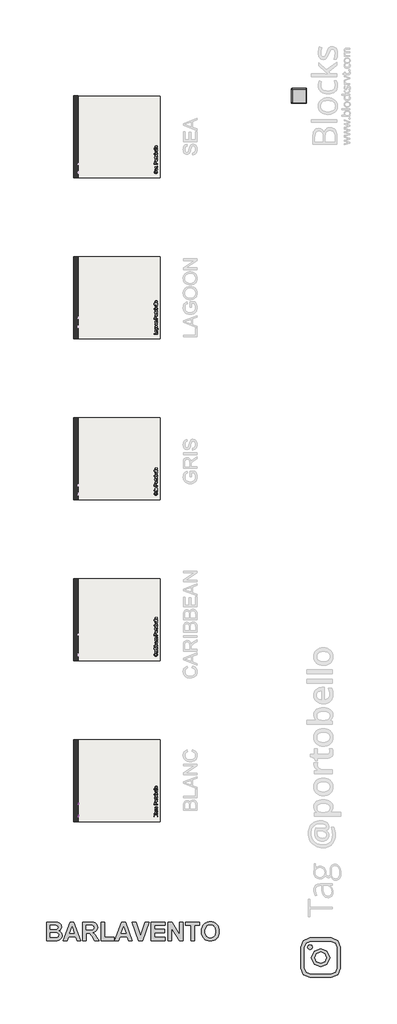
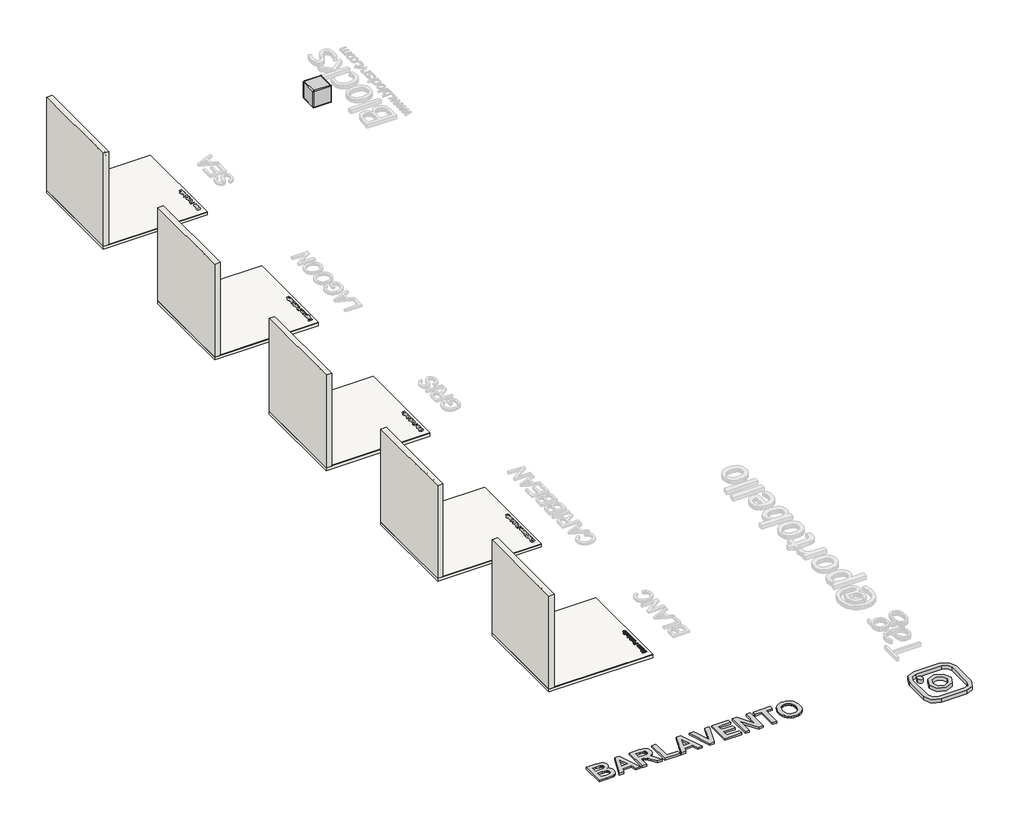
# One storey, part 1 of 7: 10 slabs, 6 proxies, 5 walls, 1 furniture element.
"""IFC4 building model written with IfcOpenShell, lengths in millimetres."""

from ifc_helpers import new_model, si_unit, frame, origin, origin_with_axes, place, context, project, spatial, polyline, outline, extrude, transform, mapped, element, save
from components import generic_models_d67f6705, branco_22256ad2

model = new_model("IFC4")

# Units and contexts
model_context = context("Model", 3, world=origin())
ifc_project = project(units=[si_unit("LENGTHUNIT", "METRE", prefix="MILLI")], contexts=[model_context])

# Site, building, storey
site = spatial("IfcSite", under=ifc_project)
building = spatial("IfcBuilding", under=site)
storey = spatial("IfcBuildingStorey", under=building, Name="PORTOBELLO - SHOWROOM", Elevation=0.0)

# Proxies
placement = place(None, origin())
generic_models_shape = generic_models_d67f6705(model_context)
element("IfcBuildingElementProxy", 1, Name="Blks_Instagram1 : Único 2", ObjectType="Blks_Instagram1 : Único 2", at=placement, inside=storey, context=model_context, shape_type="MappedRepresentation", body=[
    mapped(generic_models_shape, transform((82568.7650372, -17218.2432303, 0.0), x_axis=(-1.0, 0.0, 0.0), y_axis=(0.0, -1.0, 0.0), z_axis=(0.0, 0.0, 1.0))),
])
element("IfcBuildingElementProxy", 2, Name="10mm Arial", ObjectType="10mm Arial", at=placement, inside=storey, context=model_context, shape_type="SweptSolid", body=[
    extrude(outline(polyline([(-12585.2594662, 2478.2261649), (-12585.2594662, 2578.6824751), (-12546.9261623, 2578.6824751), (-12528.1519178, 2575.7271564), (-12517.066407, 2566.6404711), (-12513.0564933, 2553.7891267), (-12516.4287449, 2542.0536911), (-12526.6190762, 2533.1632095), (-12514.2459784, 2523.7944814), (-12509.9172336, 2508.1717593), (-12512.8725523, 2494.6704901), (-12520.193404, 2485.0565073), (-12531.1194993, 2479.9552103), (-12547.2204679, 2478.2261649), (-12585.2594662, 2478.2261649)]), holes=[polyline([(-12572.7024274, 2537.8720991), (-12549.7711164, 2537.8720991), (-12536.3802118, 2538.9512196), (-12528.3235961, 2543.5987955), (-12525.6135321, 2551.7780385), (-12528.1396551, 2559.9695443), (-12535.3746677, 2564.8133239), (-12551.5124245, 2566.1254363), (-12572.7024274, 2566.1254363), (-12572.7024274, 2537.8720991)]), polyline([(-12572.7024274, 2490.7832037), (-12546.9506878, 2490.7832037), (-12537.6310106, 2491.273713), (-12529.7460731, 2494.0083025), (-12524.5221488, 2499.5878461), (-12522.4742724, 2508.049132), (-12524.8777681, 2517.8102676), (-12532.6646036, 2523.6350659), (-12548.1769611, 2525.3150603), (-12572.7024274, 2525.3150603), (-12572.7024274, 2490.7832037)])]), frame((74564.1689403, 0.0, 0.0), z_axis=(1.0, 0.0, 0.0), x_axis=(0.0, 1.0, 0.0)), (0.0, 0.0, 1.0), 20.0),
    extrude(outline(polyline([(74584.1689403, -12481.6638964), (74584.1689403, -12494.2209351), (74564.1689403, -12494.2209351), (74564.1689403, -12481.6638964), (74584.1689403, -12481.6638964)])), frame((0.0, 0.0, 2478.2261649), z_axis=(0.0, 0.0, 1.0), x_axis=(1.0, 0.0, 0.0)), (0.0, 0.0, 1.0), 100.4563101),
    extrude(outline(polyline([(-12415.7394428, 2487.643944), (-12427.9163369, 2479.1336072), (-12441.3685552, 2476.6565351), (-12451.8623891, 2478.1464572), (-12459.6032394, 2482.6162234), (-12464.3765083, 2489.4036462), (-12465.9675979, 2497.846538), (-12463.5641022, 2507.7793519), (-12457.2487946, 2514.989839), (-12448.4564149, 2519.1101173), (-12437.5916334, 2520.9985782), (-12415.8130192, 2525.3150603), (-12415.7394428, 2528.1109635), (-12419.1975336, 2537.3815898), (-12433.0789475, 2541.0113588), (-12445.7831391, 2538.5956003), (-12451.8409293, 2530.0239499), (-12464.3979681, 2531.5935797), (-12458.9655773, 2543.8563129), (-12448.0272193, 2551.0422745), (-12431.4602668, 2553.5683975), (-12416.2422149, 2551.3365801), (-12407.6460389, 2545.732511), (-12403.7955407, 2537.2099115), (-12403.1824041, 2526.2225026), (-12403.1824041, 2510.5997805), (-12402.5447419, 2488.7843782), (-12400.0431444, 2478.2261649), (-12412.6001831, 2478.2261649), (-12415.7394428, 2487.643944)]), holes=[polyline([(-12415.7394428, 2512.7580215), (-12435.997478, 2508.9075233), (-12446.800946, 2506.8719096), (-12451.6937765, 2503.5609717), (-12453.4105591, 2498.7294548), (-12449.6704255, 2491.9359006), (-12438.6952793, 2489.2135739), (-12425.9910878, 2492.2179435), (-12417.799582, 2499.4897443), (-12415.8130192, 2509.2018289), (-12415.7394428, 2512.7580215)])]), frame((74564.1689403, 0.0, 0.0), z_axis=(1.0, 0.0, 0.0), x_axis=(0.0, 1.0, 0.0)), (0.0, 0.0, 1.0), 20.0),
    extrude(outline(polyline([(-12385.9164758, 2478.2261649), (-12385.9164758, 2551.9987677), (-12373.359437, 2551.9987677), (-12373.359437, 2541.6980718), (-12363.7577169, 2550.6008161), (-12350.6488552, 2553.5683975), (-12338.7907922, 2551.1771646), (-12330.6973883, 2544.8986452), (-12326.9327292, 2535.6648071), (-12326.2705416, 2523.5247013), (-12326.2705416, 2478.2261649), (-12338.8275804, 2478.2261649), (-12338.8275804, 2521.8324441), (-12340.2745829, 2532.9424803), (-12345.3881426, 2538.8163295), (-12354.008844, 2541.0113588), (-12367.6327406, 2536.08174), (-12371.9277629, 2528.938698), (-12373.359437, 2517.3688092), (-12373.359437, 2478.2261649), (-12385.9164758, 2478.2261649)])), frame((74564.1689403, 0.0, 0.0), z_axis=(1.0, 0.0, 0.0), x_axis=(0.0, 1.0, 0.0)), (0.0, 0.0, 1.0), 20.0),
    extrude(outline(polyline([(-12261.9157179, 2504.9098723), (-12249.3586792, 2503.3402425), (-12252.8596895, 2492.1719582), (-12259.4386458, 2483.7321321), (-12268.4762802, 2478.4254343), (-12279.3533245, 2476.6565351), (-12292.7105066, 2479.1244101), (-12303.1552896, 2486.5280353), (-12309.8967271, 2498.5424481), (-12312.143873, 2514.8426862), (-12308.3056375, 2535.7015953), (-12296.6069901, 2549.1047627), (-12279.5250028, 2553.5683975), (-12268.9146729, 2552.0355559), (-12260.4319272, 2547.437031), (-12254.3465459, 2540.0180774), (-12250.928309, 2530.0239499), (-12263.4853478, 2528.45432), (-12269.310146, 2537.8598364), (-12279.4269009, 2541.0113588), (-12287.5417646, 2539.460123), (-12293.9827652, 2534.8064158), (-12298.185817, 2526.798851), (-12299.5868342, 2515.1860427), (-12298.2164738, 2503.4168846), (-12294.1053925, 2495.3817286), (-12287.7808879, 2490.7556126), (-12279.7702574, 2489.2135739), (-12267.9367199, 2493.0640721), (-12261.9157179, 2504.9098723)])), frame((74564.1689403, 0.0, 0.0), z_axis=(1.0, 0.0, 0.0), x_axis=(0.0, 1.0, 0.0)), (0.0, 0.0, 1.0), 20.0),
])
element("IfcBuildingElementProxy", 3, Name="10mm Arial", ObjectType="10mm Arial", at=placement, inside=storey, context=model_context, shape_type="SweptSolid", body=[
    extrude(outline(polyline([(77181.6975876, -12581.9673464), (77081.2412774, -12581.9673464), (77081.2412774, -12543.6340425), (77084.1965961, -12524.859798), (77093.2832814, -12513.7742872), (77106.1346258, -12509.7643734), (77117.8700614, -12513.1366251), (77126.7605429, -12523.3269563), (77136.1292711, -12510.9538585), (77151.7519932, -12506.6251137), (77165.2532624, -12509.5804324), (77174.8672452, -12516.9012841), (77179.9685422, -12527.8273794), (77181.6975876, -12543.9283481), (77181.6975876, -12581.9673464)]), holes=[polyline([(77122.0516534, -12569.4103076), (77122.0516534, -12546.4789966), (77120.9725329, -12533.0880919), (77116.324957, -12525.0314762), (77108.145714, -12522.3214122), (77099.9542082, -12524.8475352), (77095.1104286, -12532.0825478), (77093.7983162, -12548.2203047), (77093.7983162, -12569.4103076), (77122.0516534, -12569.4103076)]), polyline([(77169.1405488, -12569.4103076), (77169.1405488, -12543.6585679), (77168.6500395, -12534.3388907), (77165.91545, -12526.4539533), (77160.3359064, -12521.2300289), (77151.8746205, -12519.1821525), (77142.1134849, -12521.5856482), (77136.2886866, -12529.3724838), (77134.6086922, -12544.8848412), (77134.6086922, -12569.4103076), (77169.1405488, -12569.4103076)])]), frame((0.0, 0.0, 15.0), z_axis=(0.0, 0.0, 1.0), x_axis=(1.0, 0.0, 0.0)), (0.0, 0.0, 1.0), 20.0),
    extrude(outline(polyline([(77181.6975876, -12490.9288153), (77081.2412774, -12490.9288153), (77081.2412774, -12478.3717765), (77181.6975876, -12478.3717765), (77181.6975876, -12490.9288153)])), frame((0.0, 0.0, 15.0), z_axis=(0.0, 0.0, 1.0), x_axis=(1.0, 0.0, 0.0)), (0.0, 0.0, 1.0), 20.0),
    extrude(outline(polyline([(77172.2798085, -12412.447323), (77180.7901453, -12424.624217), (77183.2672174, -12438.0764353), (77181.7772953, -12448.5702692), (77177.3075291, -12456.3111195), (77170.5201063, -12461.0843884), (77162.0772145, -12462.675478), (77152.1444006, -12460.2719823), (77144.9339135, -12453.9566748), (77140.8136352, -12445.1642951), (77138.9251743, -12434.2995135), (77134.6086922, -12412.5208994), (77131.812789, -12412.447323), (77122.5421627, -12415.9054137), (77118.9123937, -12429.7868277), (77121.3281522, -12442.4910192), (77129.8998026, -12448.5488094), (77128.3301728, -12461.1058482), (77116.0674396, -12455.6734574), (77108.881478, -12444.7350994), (77106.355355, -12428.1681469), (77108.5871724, -12412.950095), (77114.1912414, -12404.3539191), (77122.713841, -12400.5034209), (77133.7012499, -12399.8902842), (77149.323972, -12399.8902842), (77171.1393743, -12399.2526221), (77181.6975876, -12396.7510245), (77181.6975876, -12409.3080633), (77172.2798085, -12412.447323)]), holes=[polyline([(77147.1657309, -12412.447323), (77151.0162292, -12432.7053582), (77153.0518429, -12443.5088261), (77156.3627808, -12448.4016566), (77161.1942977, -12450.1184393), (77167.9878519, -12446.3783057), (77170.7101786, -12435.4031595), (77167.705809, -12422.6989679), (77160.4340082, -12414.5074621), (77150.7219236, -12412.5208994), (77147.1657309, -12412.447323)])]), frame((0.0, 0.0, 15.0), z_axis=(0.0, 0.0, 1.0), x_axis=(1.0, 0.0, 0.0)), (0.0, 0.0, 1.0), 20.0),
    extrude(outline(polyline([(77181.6975876, -12382.6243559), (77107.9249848, -12382.6243559), (77107.9249848, -12370.0673171), (77118.2256807, -12370.0673171), (77109.3229364, -12360.4655971), (77106.355355, -12347.3567353), (77108.7465879, -12335.4986723), (77115.0251073, -12327.4052684), (77124.2589454, -12323.6406093), (77136.3990512, -12322.9784217), (77181.6975876, -12322.9784217), (77181.6975876, -12335.5354605), (77138.0913084, -12335.5354605), (77126.9812721, -12336.982463), (77121.107423, -12342.0960228), (77118.9123937, -12350.7167242), (77123.8420125, -12364.3406207), (77130.9850545, -12368.635643), (77142.5549433, -12370.0673171), (77181.6975876, -12370.0673171), (77181.6975876, -12382.6243559)])), frame((0.0, 0.0, 15.0), z_axis=(0.0, 0.0, 1.0), x_axis=(1.0, 0.0, 0.0)), (0.0, 0.0, 1.0), 20.0),
    extrude(outline(polyline([(77155.0138802, -12258.6235981), (77156.58351, -12246.0665593), (77167.7517943, -12249.5675696), (77176.1916204, -12256.146526), (77181.4983181, -12265.1841603), (77183.2672174, -12276.0612046), (77180.7993424, -12289.4183867), (77173.3957172, -12299.8631697), (77161.3813044, -12306.6046073), (77145.0810663, -12308.8517531), (77124.2221572, -12305.0135176), (77110.8189898, -12293.3148702), (77106.355355, -12276.2328829), (77107.8881966, -12265.622553), (77112.4867215, -12257.1398073), (77119.9056751, -12251.054426), (77129.8998026, -12247.6361891), (77131.4694325, -12260.1932279), (77122.0639161, -12266.0180262), (77118.9123937, -12276.134781), (77120.4636295, -12284.2496447), (77125.1173367, -12290.6906453), (77133.1249015, -12294.8936971), (77144.7377098, -12296.2947144), (77156.5068679, -12294.9243539), (77164.5420239, -12290.8132726), (77169.1681399, -12284.488768), (77170.7101786, -12276.4781376), (77166.8596804, -12264.6446), (77155.0138802, -12258.6235981)])), frame((0.0, 0.0, 15.0), z_axis=(0.0, 0.0, 1.0), x_axis=(1.0, 0.0, 0.0)), (0.0, 0.0, 1.0), 20.0),
])
element("IfcBuildingElementProxy", 4, Name="10mm Arial", ObjectType="10mm Arial", at=placement, inside=storey, context=model_context, shape_type="SweptSolid", body=[
    extrude(outline(polyline([(77181.6975876, -12176.9673464), (77081.2412774, -12176.9673464), (77081.2412774, -12139.7376884), (77082.1977706, -12124.728103), (77086.8943974, -12112.5266835), (77096.6064821, -12104.6172206), (77110.303955, -12101.6251137), (77122.1436239, -12103.645399), (77132.0089927, -12109.7062549), (77138.6676569, -12121.040086), (77140.8872116, -12138.8792971), (77140.8872116, -12164.4103076), (77181.6975876, -12164.4103076), (77181.6975876, -12176.9673464)]), holes=[polyline([(77128.3301728, -12164.4103076), (77128.3301728, -12138.1435331), (77123.7193851, -12119.6513315), (77118.1704984, -12115.5494473), (77110.7454134, -12114.1821525), (77100.3466157, -12117.4072513), (77094.6567075, -12125.8808), (77093.7983162, -12138.4378387), (77093.7983162, -12164.4103076), (77128.3301728, -12164.4103076)])]), frame((0.0, 0.0, 15.0), z_axis=(0.0, 0.0, 1.0), x_axis=(1.0, 0.0, 0.0)), (0.0, 0.0, 1.0), 20.0),
    extrude(outline(polyline([(77144.8112862, -12089.068075), (77127.0241917, -12086.3518796), (77114.5223352, -12078.2032934), (77108.3971, -12068.1355894), (77106.355355, -12056.0813227), (77108.8416241, -12042.8896875), (77116.3004316, -12032.352934), (77128.1431661, -12025.4459496), (77143.7812166, -12023.1436214), (77166.1239164, -12027.2148488), (77178.7667943, -12039.0729118), (77183.2672174, -12056.0813227), (77180.7901453, -12069.4323735), (77173.358929, -12079.9568642), (77161.2678741, -12086.7902723), (77144.8112862, -12089.068075)]), holes=[polyline([(77144.7867607, -12076.5110362), (77156.1512487, -12075.0579023), (77164.2477183, -12070.6985007), (77169.0945635, -12064.1379384), (77170.7101786, -12056.0813227), (77169.0853665, -12048.0614952), (77164.2109301, -12041.5131957), (77156.0071616, -12037.1537941), (77144.3943533, -12035.7006602), (77133.3609591, -12037.1629911), (77125.3748541, -12041.5499839), (77120.5280088, -12048.1074805), (77118.9123937, -12056.0813227), (77120.5218774, -12064.1379384), (77125.3503286, -12070.6985007), (77133.4284041, -12075.0579023), (77144.7867607, -12076.5110362)])]), frame((0.0, 0.0, 15.0), z_axis=(0.0, 0.0, 1.0), x_axis=(1.0, 0.0, 0.0)), (0.0, 0.0, 1.0), 20.0),
    extrude(outline(polyline([(77181.6975876, -12009.0169528), (77107.9249848, -12009.0169528), (77107.9249848, -11998.0295439), (77118.8388173, -11998.0295439), (77108.7833761, -11990.2304456), (77106.355355, -11982.3822964), (77110.2303786, -11969.7762067), (77121.4875677, -11973.9700614), (77118.9123937, -11982.7992293), (77121.3894658, -11989.8993518), (77128.2565964, -11994.4243003), (77142.9228253, -11996.4599141), (77181.6975876, -11996.4599141), (77181.6975876, -12009.0169528)])), frame((0.0, 0.0, 15.0), z_axis=(0.0, 0.0, 1.0), x_axis=(1.0, 0.0, 0.0)), (0.0, 0.0, 1.0), 20.0),
    extrude(outline(polyline([(77171.2252134, -11935.2443501), (77182.0654696, -11933.6747202), (77183.2672174, -11943.0679738), (77181.1825528, -11953.5893989), (77175.7133738, -11958.8378487), (77161.4640778, -11960.3584276), (77120.4820236, -11960.3584276), (77120.4820236, -11969.7762067), (77110.2303786, -11969.7762067), (77107.9249848, -11969.7762067), (77107.9249848, -11960.3584276), (77089.9968689, -11960.3584276), (77082.6147035, -11947.8013888), (77107.9249848, -11947.8013888), (77107.9249848, -11935.2443501), (77120.4820236, -11935.2443501), (77120.4820236, -11947.8013888), (77161.0961958, -11947.8013888), (77167.5709189, -11947.1392012), (77169.8640501, -11944.9932229), (77170.7101786, -11940.713529), (77171.2252134, -11935.2443501)])), frame((0.0, 0.0, 15.0), z_axis=(0.0, 0.0, 1.0), x_axis=(1.0, 0.0, 0.0)), (0.0, 0.0, 1.0), 20.0),
    extrude(outline(polyline([(77144.8112862, -11925.826571), (77127.0241917, -11923.1103756), (77114.5223352, -11914.9617894), (77108.3971, -11904.8940855), (77106.355355, -11892.8398187), (77108.8416241, -11879.6481835), (77116.3004316, -11869.1114301), (77128.1431661, -11862.2044456), (77143.7812166, -11859.9021174), (77166.1239164, -11863.9733449), (77178.7667943, -11875.8314078), (77183.2672174, -11892.8398187), (77180.7901453, -11906.1908695), (77173.358929, -11916.7153602), (77161.2678741, -11923.5487683), (77144.8112862, -11925.826571)]), holes=[polyline([(77144.7867607, -11913.2695322), (77156.1512487, -11911.8163983), (77164.2477183, -11907.4569967), (77169.0945635, -11900.8964344), (77170.7101786, -11892.8398187), (77169.0853665, -11884.8199912), (77164.2109301, -11878.2716917), (77156.0071616, -11873.9122901), (77144.3943533, -11872.4591562), (77133.3609591, -11873.9214871), (77125.3748541, -11878.3084799), (77120.5280088, -11884.8659765), (77118.9123937, -11892.8398187), (77120.5218774, -11900.8964344), (77125.3503286, -11907.4569967), (77133.4284041, -11911.8163983), (77144.7867607, -11913.2695322)])]), frame((0.0, 0.0, 15.0), z_axis=(0.0, 0.0, 1.0), x_axis=(1.0, 0.0, 0.0)), (0.0, 0.0, 1.0), 20.0),
    extrude(outline(polyline([(77181.6975876, -11833.2184101), (77181.6975876, -11845.7754488), (77081.2412774, -11845.7754488), (77081.2412774, -11833.2184101), (77118.4954608, -11833.2184101), (77109.3903814, -11824.4260304), (77106.355355, -11813.4999351), (77109.0899444, -11800.9183709), (77116.7786781, -11791.1572353), (77128.734843, -11785.1607588), (77143.7076402, -11782.990255), (77160.4707964, -11785.2374008), (77172.9419961, -11791.9788384), (77180.6859121, -11801.8717984), (77183.2672174, -11813.5735115), (77179.9378854, -11824.7387301), (77169.9498892, -11833.2184101), (77181.6975876, -11833.2184101)]), holes=[polyline([(77144.2962514, -11833.2184101), (77161.8564853, -11829.7848448), (77168.4967553, -11823.2058884), (77170.7101786, -11814.652632), (77169.0792351, -11807.4053567), (77164.1864046, -11801.2126765), (77156.0623439, -11796.9636394), (77144.7377098, -11795.5472938), (77133.2475288, -11796.9053915), (77125.2154386, -11800.9796845), (77120.4881549, -11806.9792268), (77118.9123937, -11814.1130718), (77120.5433372, -11821.3603471), (77125.4361678, -11827.5530273), (77133.4130757, -11831.8020644), (77144.2962514, -11833.2184101)])]), frame((0.0, 0.0, 15.0), z_axis=(0.0, 0.0, 1.0), x_axis=(1.0, 0.0, 0.0)), (0.0, 0.0, 1.0), 20.0),
    extrude(outline(polyline([(77159.7227697, -11717.2129542), (77161.2923996, -11704.9011701), (77170.5691572, -11709.3372139), (77177.5037328, -11716.4158766), (77181.8263463, -11725.9777428), (77183.2672174, -11737.8633969), (77180.7809483, -11752.5970708), (77173.3221408, -11763.9339676), (77161.375173, -11771.1628488), (77145.4244228, -11773.5724759), (77128.9371781, -11771.1383234), (77116.6069999, -11763.8358658), (77108.9182662, -11752.6522531), (77106.355355, -11738.5746354), (77108.9121348, -11724.9354105), (77116.5824744, -11714.0369064), (77128.8881272, -11706.8907986), (77145.3508464, -11704.5087627), (77148.7353608, -11704.5823391), (77148.7353608, -11761.0154371), (77158.1347458, -11758.8418677), (77165.0447959, -11753.7926873), (77169.293833, -11746.5055581), (77170.7101786, -11737.6181422), (77168.0859537, -11725.3063581), (77159.7227697, -11717.2129542)]), holes=[polyline([(77136.178322, -11761.0154371), (77136.178322, -11717.0658014), (77124.7985056, -11722.093522), (77120.3839217, -11729.4143738), (77118.9123937, -11738.6236864), (77123.6090205, -11754.0869929), (77129.0996593, -11758.9522323), (77136.178322, -11761.0154371)])]), frame((0.0, 0.0, 15.0), z_axis=(0.0, 0.0, 1.0), x_axis=(1.0, 0.0, 0.0)), (0.0, 0.0, 1.0), 20.0),
    extrude(outline(polyline([(77181.6975876, -11691.9517239), (77081.2412774, -11691.9517239), (77081.2412774, -11679.3946851), (77181.6975876, -11679.3946851), (77181.6975876, -11691.9517239)])), frame((0.0, 0.0, 15.0), z_axis=(0.0, 0.0, 1.0), x_axis=(1.0, 0.0, 0.0)), (0.0, 0.0, 1.0), 20.0),
    extrude(outline(polyline([(77181.6975876, -11660.559127), (77081.2412774, -11660.559127), (77081.2412774, -11648.0020882), (77181.6975876, -11648.0020882), (77181.6975876, -11660.559127)])), frame((0.0, 0.0, 15.0), z_axis=(0.0, 0.0, 1.0), x_axis=(1.0, 0.0, 0.0)), (0.0, 0.0, 1.0), 20.0),
    extrude(outline(polyline([(77144.8112862, -11632.3057898), (77127.0241917, -11629.5895944), (77114.5223352, -11621.4410082), (77108.3971, -11611.3733042), (77106.355355, -11599.3190375), (77108.8416241, -11586.1274023), (77116.3004316, -11575.5906488), (77128.1431661, -11568.6836644), (77143.7812166, -11566.3813362), (77166.1239164, -11570.4525636), (77178.7667943, -11582.3106266), (77183.2672174, -11599.3190375), (77180.7901453, -11612.6700883), (77173.358929, -11623.194579), (77161.2678741, -11630.0279871), (77144.8112862, -11632.3057898)]), holes=[polyline([(77144.7867607, -11619.748751), (77156.1512487, -11618.2956171), (77164.2477183, -11613.9362155), (77169.0945635, -11607.3756532), (77170.7101786, -11599.3190375), (77169.0853665, -11591.29921), (77164.2109301, -11584.7509105), (77156.0071616, -11580.3915089), (77144.3943533, -11578.938375), (77133.3609591, -11580.4007059), (77125.3748541, -11584.7876987), (77120.5280088, -11591.3451953), (77118.9123937, -11599.3190375), (77120.5218774, -11607.3756532), (77125.3503286, -11613.9362155), (77133.4284041, -11618.2956171), (77144.7867607, -11619.748751)])]), frame((0.0, 0.0, 15.0), z_axis=(0.0, 0.0, 1.0), x_axis=(1.0, 0.0, 0.0)), (0.0, 0.0, 1.0), 20.0),
])
element("IfcBuildingElementProxy", 5, Name="10mm Arial Narrow", ObjectType="10mm Arial Narrow", at=placement, inside=storey, context=model_context, shape_type="SweptSolid", body=[
    extrude(outline(polyline([(-12183.1244071, 2478.2261649), (-12183.1244071, 2578.9447687), (-12151.8275224, 2578.9447687), (-12135.5318209, 2577.066448), (-12124.0588348, 2567.5860048), (-12119.7691563, 2550.566896), (-12121.5554647, 2538.4910704), (-12126.91439, 2528.8646766), (-12136.6581788, 2522.5634182), (-12151.599078, 2520.4629988), (-12173.3774454, 2520.4629988), (-12173.3774454, 2478.2261649), (-12183.1244071, 2478.2261649)]), holes=[polyline([(-12173.3774454, 2531.834454), (-12150.4060905, 2531.834454), (-12134.5418951, 2536.3652682), (-12129.516118, 2550.033859), (-12131.9909325, 2560.1996354), (-12137.9685613, 2565.9995852), (-12150.6345349, 2567.5733134), (-12173.3774454, 2567.5733134), (-12173.3774454, 2531.834454)])]), frame((74564.1689403, 0.0, 0.0), z_axis=(1.0, 0.0, 0.0), x_axis=(0.0, 1.0, 0.0)), (0.0, 0.0, 1.0), 20.0),
    extrude(outline(polyline([(-12111.6466883, 2514.7772711), (-12109.6922194, 2531.3680467), (-12103.8288128, 2543.3201315), (-12094.9702461, 2550.5446861), (-12084.030297, 2552.9528709), (-12073.2172614, 2550.5446861), (-12064.3333119, 2543.3201315), (-12058.3937572, 2531.558417), (-12056.4139056, 2515.5387525), (-12058.358856, 2498.3768659), (-12064.193707, 2486.2344108), (-12073.0427552, 2479.0098562), (-12084.030297, 2476.6016713), (-12094.8909251, 2479.0162019), (-12103.765356, 2486.2597935), (-12109.6763552, 2498.218224), (-12111.6466883, 2514.7772711)]), holes=[polyline([(-12101.8997266, 2514.8026538), (-12100.5956898, 2502.2509024), (-12096.6835792, 2493.3796444), (-12090.8423825, 2488.1063858), (-12083.7510871, 2486.348633), (-12077.0310139, 2488.12225), (-12071.3389406, 2493.4431012), (-12067.4553856, 2502.3302234), (-12066.1608673, 2514.8026538), (-12067.4649041, 2527.3163312), (-12071.3770147, 2536.1748979), (-12077.2182114, 2541.4481564), (-12084.3095068, 2543.2059093), (-12091.0771725, 2541.4386379), (-12096.7597273, 2536.1368238), (-12100.6147268, 2527.2687386), (-12101.8997266, 2514.8026538)])]), frame((74564.1689403, 0.0, 0.0), z_axis=(1.0, 0.0, 0.0), x_axis=(0.0, 1.0, 0.0)), (0.0, 0.0, 1.0), 20.0),
    extrude(outline(polyline([(-11984.9361868, 2486.348633), (-11983.3116932, 2476.6016713), (-11990.6726799, 2476.6016713), (-11998.9474442, 2478.7211278), (-12003.2625053, 2484.5210777), (-12004.4301101, 2499.1669029), (-12004.4301101, 2541.5814157), (-12012.5525782, 2541.5814157), (-12012.5525782, 2544.8304029), (-12014.1770718, 2539.9569221), (-12021.7411201, 2541.5814157), (-12027.8202798, 2539.2588975), (-12031.6911435, 2532.7736144), (-12033.6709951, 2517.3663078), (-12033.6709951, 2478.2261649), (-12043.4179567, 2478.2261649), (-12043.4179567, 2551.3283773), (-12033.6709951, 2551.3283773), (-12033.6709951, 2541.6321811), (-12027.4268478, 2550.7191922), (-12021.0304042, 2552.9528709), (-12012.5525782, 2551.3283773), (-12004.4301101, 2551.3283773), (-12004.4301101, 2567.5733134), (-11994.6831485, 2575.6957815), (-11994.6831485, 2551.3283773), (-11984.9361868, 2551.3283773), (-11984.9361868, 2541.5814157), (-11994.6831485, 2541.5814157), (-11994.6831485, 2496.9332241), (-11993.8201362, 2488.9376697), (-11989.2004825, 2486.348633), (-11984.9361868, 2486.348633)])), frame((74564.1689403, 0.0, 0.0), z_axis=(1.0, 0.0, 0.0), x_axis=(0.0, 1.0, 0.0)), (0.0, 0.0, 1.0), 20.0),
    extrude(outline(polyline([(-11978.4382124, 2514.7772711), (-11976.4837435, 2531.3680467), (-11970.6203369, 2543.3201315), (-11961.7617702, 2550.5446861), (-11950.821821, 2552.9528709), (-11940.0087854, 2550.5446861), (-11931.124836, 2543.3201315), (-11925.1852813, 2531.558417), (-11923.2054297, 2515.5387525), (-11925.15038, 2498.3768659), (-11930.9852311, 2486.2344108), (-11939.8342793, 2479.0098562), (-11950.821821, 2476.6016713), (-11961.6824492, 2479.0162019), (-11970.5568801, 2486.2597935), (-11976.4678793, 2498.218224), (-11978.4382124, 2514.7772711)]), holes=[polyline([(-11968.6912507, 2514.8026538), (-11967.3872139, 2502.2509024), (-11963.4751033, 2493.3796444), (-11957.6339065, 2488.1063858), (-11950.5426112, 2486.348633), (-11943.822538, 2488.12225), (-11938.1304647, 2493.4431012), (-11934.2469097, 2502.3302234), (-11932.9523913, 2514.8026538), (-11934.2564282, 2527.3163312), (-11938.1685388, 2536.1748979), (-11944.0097355, 2541.4481564), (-11951.1010309, 2543.2059093), (-11957.8686966, 2541.4386379), (-11963.5512514, 2536.1368238), (-11967.4062509, 2527.2687386), (-11968.6912507, 2514.8026538)])]), frame((74564.1689403, 0.0, 0.0), z_axis=(1.0, 0.0, 0.0), x_axis=(0.0, 1.0, 0.0)), (0.0, 0.0, 1.0), 20.0),
    extrude(outline(polyline([(-11900.4625191, 2478.2261649), (-11910.2094808, 2478.2261649), (-11910.2094808, 2578.9447687), (-11900.4625191, 2578.9447687), (-11900.4625191, 2543.5358846), (-11893.0634584, 2550.6176614), (-11883.8622251, 2552.9528709), (-11870.9804984, 2548.752032), (-11861.7031169, 2536.0226016), (-11858.2256853, 2515.3356908), (-11860.1579443, 2498.8813473), (-11865.9547213, 2486.6786082), (-11874.3278436, 2479.1209056), (-11883.9891386, 2476.6016713), (-11893.3299769, 2479.2160907), (-11900.4625191, 2486.9832008), (-11900.4625191, 2478.2261649)]), holes=[polyline([(-11900.4625191, 2515.3356908), (-11898.3811367, 2498.0881376), (-11892.4923474, 2489.3564844), (-11884.0399041, 2486.348633), (-11878.0971765, 2488.1381142), (-11872.8588191, 2493.5065579), (-11867.972647, 2514.9295674), (-11872.6811402, 2536.3652682), (-11877.9258432, 2541.495749), (-11884.2429658, 2543.2059093), (-11890.2205946, 2541.416428), (-11895.5128902, 2536.0479843), (-11900.4625191, 2515.3356908)])]), frame((74564.1689403, 0.0, 0.0), z_axis=(1.0, 0.0, 0.0), x_axis=(0.0, 1.0, 0.0)), (0.0, 0.0, 1.0), 20.0),
    extrude(outline(polyline([(-11806.2418898, 2500.9690755), (-11796.4949282, 2499.3445818), (-11800.1944585, 2489.4580153), (-11806.0134454, 2482.3381644), (-11813.7170987, 2478.0357946), (-11823.0706283, 2476.6016713), (-11834.6641823, 2479.0162019), (-11843.8083045, 2486.2597935), (-11849.7478593, 2498.0659277), (-11851.7277109, 2514.168086), (-11849.7383408, 2530.8350097), (-11843.7702305, 2543.0155389), (-11834.7561946, 2550.4685379), (-11823.629048, 2552.9528709), (-11812.9460988, 2550.5542046), (-11804.1985815, 2543.3582056), (-11798.3637304, 2531.618701), (-11796.41878, 2515.5895179), (-11796.4949282, 2512.3405307), (-11841.9807492, 2512.3405307), (-11835.9777377, 2492.8973728), (-11830.0477014, 2487.9858179), (-11822.9437147, 2486.348633), (-11812.765247, 2490.0037436), (-11806.2418898, 2500.9690755)]), holes=[polyline([(-11841.3207987, 2522.0874924), (-11806.2418898, 2522.0874924), (-11810.5061855, 2536.3525769), (-11816.3315181, 2541.4925762), (-11823.5528998, 2543.2059093), (-11835.7619846, 2537.4947989), (-11841.3207987, 2522.0874924)])]), frame((74564.1689403, 0.0, 0.0), z_axis=(1.0, 0.0, 0.0), x_axis=(0.0, 1.0, 0.0)), (0.0, 0.0, 1.0), 20.0),
    extrude(outline(polyline([(74584.1689403, -11773.7520176), (74584.1689403, -11783.4989793), (74564.1689403, -11783.4989793), (74564.1689403, -11773.7520176), (74584.1689403, -11773.7520176)])), frame((0.0, 0.0, 2478.2261649), z_axis=(0.0, 0.0, 1.0), x_axis=(1.0, 0.0, 0.0)), (0.0, 0.0, 1.0), 100.7186038),
    extrude(outline(polyline([(74584.1689403, -11747.7601199), (74584.1689403, -11757.5070816), (74564.1689403, -11757.5070816), (74564.1689403, -11747.7601199), (74584.1689403, -11747.7601199)])), frame((0.0, 0.0, 2478.2261649), z_axis=(0.0, 0.0, 1.0), x_axis=(1.0, 0.0, 0.0)), (0.0, 0.0, 1.0), 100.7186038),
    extrude(outline(polyline([(-11736.3886646, 2514.7772711), (-11734.4341958, 2531.3680467), (-11728.5707891, 2543.3201315), (-11719.7122224, 2550.5446861), (-11708.7722733, 2552.9528709), (-11697.9592377, 2550.5446861), (-11689.0752883, 2543.3201315), (-11683.1357335, 2531.558417), (-11681.1558819, 2515.5387525), (-11683.1008323, 2498.3768659), (-11688.9356834, 2486.2344108), (-11697.7847316, 2479.0098562), (-11708.7722733, 2476.6016713), (-11719.6329015, 2479.0162019), (-11728.5073324, 2486.2597935), (-11734.4183316, 2498.218224), (-11736.3886646, 2514.7772711)]), holes=[polyline([(-11726.641703, 2514.8026538), (-11725.3376661, 2502.2509024), (-11721.4255555, 2493.3796444), (-11715.5843588, 2488.1063858), (-11708.4930635, 2486.348633), (-11701.7729903, 2488.12225), (-11696.080917, 2493.4431012), (-11692.1973619, 2502.3302234), (-11690.9028436, 2514.8026538), (-11692.2068805, 2527.3163312), (-11696.118991, 2536.1748979), (-11701.9601878, 2541.4481564), (-11709.0514831, 2543.2059093), (-11715.8191489, 2541.4386379), (-11721.5017037, 2536.1368238), (-11725.3567032, 2527.2687386), (-11726.641703, 2514.8026538)])]), frame((74564.1689403, 0.0, 0.0), z_axis=(1.0, 0.0, 0.0), x_axis=(0.0, 1.0, 0.0)), (0.0, 0.0, 1.0), 20.0),
])
element("IfcBuildingElementProxy", 6, Name="600mm Arial", ObjectType="600mm Arial", at=placement, inside=storey, context=model_context, shape_type="SweptSolid", body=[
    extrude(outline(polyline([(73525.9047965, -16045.2946312), (73777.1740387, -16045.2946312), (73842.2497359, -16046.8128744), (73888.3853497, -16051.3676038), (73923.1151619, -16060.7617334), (73953.973454, -16076.7981767), (73980.4857751, -16099.3440875), (74002.1776742, -16128.2666196), (74016.6389402, -16162.3322004), (74021.4593622, -16200.3072573), (74015.7090163, -16241.6793833), (73998.4579784, -16279.55955), (73971.3383601, -16311.1769637), (73935.9822726, -16333.7608306), (73959.7997121, -16343.3067844), (73980.6945335, -16355.6994442), (73998.6667369, -16370.9388099), (74013.7163222, -16389.0248814), (74025.6060639, -16409.3978068), (74034.0987365, -16431.4977337), (74039.1943401, -16455.3246622), (74040.8928746, -16480.8785923), (74036.0155185, -16521.8901355), (74021.3834501, -16561.7250403), (73998.3061541, -16597.0241936), (73968.0931154, -16624.4284826), (73930.383751, -16643.387544), (73884.8174783, -16653.3510147), (73735.1187033, -16657.4502712), (73525.9047965, -16657.4502712), (73525.9047965, -16045.2946312)]), holes=[polyline([(73642.5058708, -16152.1789493), (73642.5058708, -16288.213536), (73731.4749197, -16288.213536), (73830.1607248, -16286.2398199), (73861.2277753, -16279.1420331), (73884.8933905, -16265.13624), (73899.8670636, -16244.90565), (73904.858288, -16219.1334724), (73900.550273, -16194.4809992), (73887.6262282, -16174.8766845), (73866.2379777, -16161.155562), (73836.537346, -16154.1526654), (73720.543569, -16152.1789493), (73642.5058708, -16152.1789493)]), polyline([(73642.5058708, -16395.0978541), (73642.5058708, -16550.5659531), (73765.787215, -16550.5659531), (73857.1854529, -16546.9221695), (73884.172225, -16538.7805906), (73905.6174095, -16523.7689614), (73919.6232026, -16502.1909306), (73924.2918003, -16474.3501467), (73920.6859729, -16450.2100806), (73909.8684904, -16430.0174466), (73892.2568698, -16414.2656739), (73868.2686279, -16403.4481914), (73825.1505223, -16397.1854384), (73750.1493105, -16395.0978541), (73642.5058708, -16395.0978541)])]), origin_with_axes(), (0.0, 0.0, 1.0), 50.0),
    extrude(outline(polyline([(74653.0485146, -16657.4502712), (74530.526292, -16657.4502712), (74482.5498083, -16521.4156845), (74251.3213759, -16521.4156845), (74203.9521894, -16657.4502712), (74079.7598994, -16657.4502712), (74303.2452918, -16045.2946312), (74427.4375818, -16045.2946312), (74653.0485146, -16657.4502712)]), holes=[polyline([(74445.2010267, -16414.5313664), (74366.404207, -16191.0459741), (74288.6701575, -16414.5313664), (74445.2010267, -16414.5313664)])]), origin_with_axes(), (0.0, 0.0, 1.0), 50.0),
    extrude(outline(polyline([(74711.3490517, -16657.4502712), (74711.3490517, -16045.2946312), (74968.8430908, -16045.2946312), (75052.7260251, -16049.4318438), (75084.7040215, -16054.6033596), (75110.0397042, -16061.8434816), (75130.9535036, -16071.7310401), (75149.6658505, -16084.8448654), (75166.1767448, -16101.1849573), (75180.4861865, -16120.751316), (75192.0438126, -16142.6994186), (75200.2992597, -16166.1847424), (75205.252528, -16191.2072874), (75206.9036174, -16217.7670536), (75204.517129, -16250.8742434), (75197.3576636, -16280.9639249), (75185.4252213, -16308.0360982), (75168.7198021, -16332.0907631), (75147.260384, -16352.5490896), (75121.0659451, -16368.8322475), (75090.1364853, -16380.9402366), (75054.4720047, -16388.8730571), (75088.290871, -16413.2408598), (75115.6572038, -16439.8860271), (75143.9724387, -16478.4873593), (75180.6380109, -16538.7236565), (75255.4873984, -16657.4502712), (75119.3009874, -16657.4502712), (75030.6355872, -16517.6200766), (74987.8021522, -16463.9312031), (74961.0241385, -16434.6480882), (74941.7044944, -16420.2437563), (74921.2461679, -16411.1912315), (74894.0885934, -16406.4087656), (74854.6712055, -16404.8146103), (74827.950126, -16404.8146103), (74827.950126, -16657.4502712), (74711.3490517, -16657.4502712)]), holes=[polyline([(74827.950126, -16297.9302922), (74924.0549177, -16297.9302922), (74999.9101413, -16296.1653345), (75040.7319041, -16290.8704615), (75061.4938793, -16281.2675735), (75077.1697399, -16266.578571), (75087.0193423, -16247.2019928), (75090.3025432, -16223.5363776), (75085.9755502, -16197.3277051), (75072.9945712, -16176.6985763), (75052.1187278, -16162.14242), (75024.1071416, -16154.1526654), (74929.3687688, -16152.1789493), (74827.950126, -16152.1789493), (74827.950126, -16297.9302922)])]), origin_with_axes(), (0.0, 0.0, 1.0), 50.0),
    extrude(outline(polyline([(75323.5046917, -16657.4502712), (75323.5046917, -16045.2946312), (75440.105766, -16045.2946312), (75440.105766, -16550.5659531), (75751.0419641, -16550.5659531), (75751.0419641, -16657.4502712), (75323.5046917, -16657.4502712)])), origin_with_axes(), (0.0, 0.0, 1.0), 50.0),
    extrude(outline(polyline([(76559.8100926, -16657.4502712), (76353.4808479, -16045.2946312), (76476.4585434, -16045.2946312), (76630.4083993, -16501.9821722), (76784.8137281, -16045.2946312), (76907.3359507, -16045.2946312), (76690.0753553, -16657.4502712), (76559.8100926, -16657.4502712)])), origin_with_axes(), (0.0, 0.0, 1.0), 50.0),
    extrude(outline(polyline([(76353.4808479, -16657.4502712), (76230.9586253, -16657.4502712), (76182.9821416, -16521.4156845), (75951.7537091, -16521.4156845), (75904.3845227, -16657.4502712), (75780.1922326, -16657.4502712), (76003.677625, -16045.2946312), (76127.8699151, -16045.2946312), (76353.4808479, -16657.4502712)]), holes=[polyline([(76145.63336, -16414.5313664), (76066.8365403, -16191.0459741), (75989.1024907, -16414.5313664), (76145.63336, -16414.5313664)])]), origin_with_axes(), (0.0, 0.0, 1.0), 50.0),
    extrude(outline(polyline([(76975.353244, -16657.4502712), (76975.353244, -16045.2946312), (77432.040785, -16045.2946312), (77432.040785, -16152.1789493), (77091.9543183, -16152.1789493), (77091.9543183, -16288.213536), (77412.6072726, -16288.213536), (77412.6072726, -16395.0978541), (77091.9543183, -16395.0978541), (77091.9543183, -16550.5659531), (77441.7575411, -16550.5659531), (77441.7575411, -16657.4502712), (76975.353244, -16657.4502712)])), origin_with_axes(), (0.0, 0.0, 1.0), 50.0),
    extrude(outline(polyline([(77538.925103, -16657.4502712), (77538.925103, -16045.2946312), (77661.143677, -16045.2946312), (77917.8785945, -16457.3458234), (77917.8785945, -16045.2946312), (78034.4796687, -16045.2946312), (78034.4796687, -16657.4502712), (77908.4654869, -16657.4502712), (77655.5261773, -16251.4720516), (77655.5261773, -16657.4502712), (77538.925103, -16657.4502712)])), origin_with_axes(), (0.0, 0.0, 1.0), 50.0),
    extrude(outline(polyline([(78287.1153297, -16657.4502712), (78287.1153297, -16152.1789493), (78112.2137183, -16152.1789493), (78112.2137183, -16045.2946312), (78578.6180154, -16045.2946312), (78578.6180154, -16152.1789493), (78403.716404, -16152.1789493), (78403.716404, -16657.4502712), (78287.1153297, -16657.4502712)])), origin_with_axes(), (0.0, 0.0, 1.0), 50.0),
    extrude(outline(polyline([(78636.9185525, -16355.1680591), (78638.6360651, -16310.360908), (78643.7886028, -16269.3114087), (78652.3761656, -16232.0195612), (78664.3987536, -16198.4853655), (78688.63371, -16154.2475556), (78720.3460139, -16114.7542555), (78757.486037, -16082.4346544), (78798.0041512, -16059.7179412), (78827.1733978, -16049.1566622), (78858.506141, -16041.6128916), (78892.0023806, -16037.0866292), (78927.6621166, -16035.577875), (78990.7640978, -16040.8110694), (79047.2237651, -16056.5106525), (79097.0411186, -16082.6766244), (79140.2161583, -16119.308985), (79158.8976659, -16141.2630183), (79175.0883058, -16165.259563), (79199.9969825, -16219.3801869), (79214.9421886, -16281.6708569), (79219.9239239, -16352.1315728), (79214.9801447, -16422.1130932), (79200.1488068, -16484.0289468), (79175.4299105, -16537.8791337), (79159.3626278, -16561.7796022), (79140.8234556, -16583.6636539), (79097.9330864, -16620.1963798), (79048.3624474, -16646.291184), (78992.1115386, -16661.9480665), (78929.1803598, -16667.1670274), (78865.5849497, -16661.9717891), (78808.8595898, -16646.3860742), (78759.0042802, -16620.4098827), (78716.0190209, -16584.0432147), (78681.412566, -16538.5670877), (78656.6936696, -16485.2625194), (78641.8623318, -16424.1295099), (78636.9185525, -16355.1680591)]), holes=[polyline([(78753.5196268, -16350.9169783), (78756.6177917, -16399.3394459), (78765.9122866, -16441.5181385), (78781.4031112, -16477.4530562), (78803.0902658, -16507.1441989), (78829.5503973, -16530.3922972), (78859.3601527, -16546.9980817), (78892.5195321, -16556.9615524), (78929.0285355, -16560.2827093), (78965.4995828, -16556.9852749), (78998.5450939, -16547.0929719), (79028.165069, -16530.6058001), (79054.3595079, -16507.5237597), (79075.7809699, -16477.8468505), (79091.0820142, -16441.5750726), (79100.2626408, -16398.7084261), (79103.3228496, -16349.2469108), (79100.3432975, -16300.4733494), (79091.4046409, -16258.3041458), (79076.5068799, -16222.7392999), (79055.6500146, -16193.7788117), (79029.858859, -16171.3277911), (79000.1582273, -16155.2913478), (78966.5481194, -16145.6694818), (78929.0285355, -16142.4621931), (78891.4709954, -16145.7074379), (78857.7470194, -16155.4431721), (78827.8566073, -16171.6693958), (78801.7997591, -16194.386109), (78780.6772012, -16223.6407568), (78765.5896599, -16259.4807843), (78756.5371351, -16301.9061914), (78753.5196268, -16350.9169783)])]), origin_with_axes(), (0.0, 0.0, 1.0), 50.0),
])

# Furniture
branco_shape = branco_22256ad2(model_context)
element("IfcFurniture", 7, ObjectType="Blks_Mob_Blocks Revit_Cubo : Branco", at=placement, inside=storey, context=model_context, shape_type="MappedRepresentation", body=[
    mapped(branco_shape, transform((81854.1786688, 11171.9444343, 0.0), x_axis=(1.0, 0.0, 0.0), y_axis=(0.0, 1.0, 0.0), z_axis=(0.0, 0.0, 1.0))),
])

# Slabs
element("IfcSlab", 8, ObjectType="PORTOBELLO - BARLAVENTO - BLANC - 14,5X14,5 - RELEVO - EXT - BOLD", at=placement, inside=storey, context=model_context, shape_type="SweptSolid", body=[
    extrude(outline(polyline([(77264.1689403, -12732.1323022), (74564.1689403, -12732.1323022), (74564.1689403, -10032.1323022), (77264.1689403, -10032.1323022), (77264.1689403, -12732.1323022)])), origin_with_axes(), (0.0, 0.0, 1.0), 15.0),
])
element("IfcSlab", 9, ObjectType="PORTOBELLO - BARLAVENTO - CARIBBEAN - 14,5X14,5 - RELEVO - EXT - BOLD", at=placement, inside=storey, context=model_context, shape_type="SweptSolid", body=[
    extrude(outline(polyline([(77264.1689403, -7432.1323022), (74564.1689403, -7432.1323022), (74564.1689403, -4732.1323022), (77264.1689403, -4732.1323022), (77264.1689403, -7432.1323022)])), frame((0.0, 0.0, 2.0), z_axis=(0.0, 0.0, 1.0), x_axis=(1.0, 0.0, 0.0)), (0.0, 0.0, 1.0), 15.0),
])
element("IfcSlab", 10, ObjectType="PORTOBELLO - BARLAVENTO - GRIS - 14,5X14,5 - RELEVO - EXT - BOLD", at=placement, inside=storey, context=model_context, shape_type="SweptSolid", body=[
    extrude(outline(polyline([(77264.1689403, -2132.1323022), (74564.1689403, -2132.1323022), (74564.1689403, 567.8676978), (77264.1689403, 567.8676978), (77264.1689403, -2132.1323022)])), frame((0.0, 0.0, 2.0), z_axis=(0.0, 0.0, 1.0), x_axis=(1.0, 0.0, 0.0)), (0.0, 0.0, 1.0), 15.0),
])
element("IfcSlab", 11, ObjectType="PORTOBELLO - BARLAVENTO - LAGOON - 14,5X14,5 - RELEVO - EXT - BOLD", at=placement, inside=storey, context=model_context, shape_type="SweptSolid", body=[
    extrude(outline(polyline([(77264.1689403, 3167.8676978), (74564.1689403, 3167.8676978), (74564.1689403, 5867.8676978), (77264.1689403, 5867.8676978), (77264.1689403, 3167.8676978)])), frame((0.0, 0.0, 2.0), z_axis=(0.0, 0.0, 1.0), x_axis=(1.0, 0.0, 0.0)), (0.0, 0.0, 1.0), 15.0),
])
element("IfcSlab", 12, ObjectType="PORTOBELLO - BARLAVENTO - SEA - 14,5X14,5 - RELEVO - EXT - BOLD", at=placement, inside=storey, context=model_context, shape_type="SweptSolid", body=[
    extrude(outline(polyline([(77264.1689403, 8467.8676978), (74564.1689403, 8467.8676978), (74564.1689403, 11167.8676978), (77264.1689403, 11167.8676978), (77264.1689403, 8467.8676978)])), frame((0.0, 0.0, 2.0), z_axis=(0.0, 0.0, 1.0), x_axis=(1.0, 0.0, 0.0)), (0.0, 0.0, 1.0), 15.0),
])
element("IfcSlab", 13, ObjectType="PORTOBELLO - LAJE", at=placement, inside=storey, context=model_context, shape_type="SweptSolid", body=[
    extrude(outline(polyline([(77264.1689403, -10032.1323022), (77264.1689403, -12732.1323022), (74414.1689403, -12732.1323022), (74414.1689403, -10032.1323022), (77264.1689403, -10032.1323022)])), frame((0.0, 0.0, -80.0), z_axis=(0.0, 0.0, 1.0), x_axis=(1.0, 0.0, 0.0)), (0.0, 0.0, 1.0), 80.0),
])
element("IfcSlab", 14, ObjectType="PORTOBELLO - LAJE", at=placement, inside=storey, context=model_context, shape_type="SweptSolid", body=[
    extrude(outline(polyline([(77264.1689403, -4732.1323022), (77264.1689403, -7432.1323022), (74414.1689403, -7432.1323022), (74414.1689403, -4732.1323022), (77264.1689403, -4732.1323022)])), frame((0.0, 0.0, -80.0), z_axis=(0.0, 0.0, 1.0), x_axis=(1.0, 0.0, 0.0)), (0.0, 0.0, 1.0), 80.0),
])
element("IfcSlab", 15, ObjectType="PORTOBELLO - LAJE", at=placement, inside=storey, context=model_context, shape_type="SweptSolid", body=[
    extrude(outline(polyline([(77264.1689403, 567.8676978), (77264.1689403, -2132.1323022), (74414.1689403, -2132.1323022), (74414.1689403, 567.8676978), (77264.1689403, 567.8676978)])), frame((0.0, 0.0, -80.0), z_axis=(0.0, 0.0, 1.0), x_axis=(1.0, 0.0, 0.0)), (0.0, 0.0, 1.0), 80.0),
])
element("IfcSlab", 16, ObjectType="PORTOBELLO - LAJE", at=placement, inside=storey, context=model_context, shape_type="SweptSolid", body=[
    extrude(outline(polyline([(77264.1689403, 5867.8676978), (77264.1689403, 3167.8676978), (74414.1689403, 3167.8676978), (74414.1689403, 5867.8676978), (77264.1689403, 5867.8676978)])), frame((0.0, 0.0, -80.0), z_axis=(0.0, 0.0, 1.0), x_axis=(1.0, 0.0, 0.0)), (0.0, 0.0, 1.0), 80.0),
])
element("IfcSlab", 17, ObjectType="PORTOBELLO - LAJE", at=placement, inside=storey, context=model_context, shape_type="SweptSolid", body=[
    extrude(outline(polyline([(77264.1689403, 11167.8676978), (77264.1689403, 8467.8676978), (74414.1689403, 8467.8676978), (74414.1689403, 11167.8676978), (77264.1689403, 11167.8676978)])), frame((0.0, 0.0, -80.0), z_axis=(0.0, 0.0, 1.0), x_axis=(1.0, 0.0, 0.0)), (0.0, 0.0, 1.0), 80.0),
])

# Walls
element("IfcWall", 18, ObjectType="PORTOBELLO - BARLAVENTO - BLANC - 14,5X14,5 - RELEVO - EXT - BOLD", at=placement, inside=storey, context=model_context, shape_type="SweptSolid", body=[
    extrude(outline(polyline([(74564.1689403, -10032.1323022), (74564.1689403, -12732.1323022), (74414.1689403, -12732.1323022), (74414.1689403, -10032.1323022), (74564.1689403, -10032.1323022)])), origin_with_axes(), (0.0, 0.0, 1.0), 2700.0),
])
element("IfcWall", 19, ObjectType="PORTOBELLO - BARLAVENTO - CARIBBEAN - 14,5X14,5 - RELEVO - EXT - BOLD", at=placement, inside=storey, context=model_context, shape_type="SweptSolid", body=[
    extrude(outline(polyline([(74564.1689403, -4732.1323022), (74564.1689403, -7432.1323022), (74414.1689403, -7432.1323022), (74414.1689403, -4732.1323022), (74564.1689403, -4732.1323022)])), origin_with_axes(), (0.0, 0.0, 1.0), 2700.0),
])
element("IfcWall", 20, ObjectType="PORTOBELLO - BARLAVENTO - GRIS - 14,5X14,5 - RELEVO - EXT - BOLD", at=placement, inside=storey, context=model_context, shape_type="SweptSolid", body=[
    extrude(outline(polyline([(74564.1689403, 567.8676978), (74564.1689403, -2132.1323022), (74414.1689403, -2132.1323022), (74414.1689403, 567.8676978), (74564.1689403, 567.8676978)])), origin_with_axes(), (0.0, 0.0, 1.0), 2700.0),
])
element("IfcWall", 21, ObjectType="PORTOBELLO - BARLAVENTO - LAGOON - 14,5X14,5 - RELEVO - EXT - BOLD", at=placement, inside=storey, context=model_context, shape_type="SweptSolid", body=[
    extrude(outline(polyline([(74564.1689403, 5867.8676978), (74564.1689403, 3167.8676978), (74414.1689403, 3167.8676978), (74414.1689403, 5867.8676978), (74564.1689403, 5867.8676978)])), origin_with_axes(), (0.0, 0.0, 1.0), 2700.0),
])
element("IfcWall", 22, ObjectType="PORTOBELLO - BARLAVENTO - SEA - 14,5X14,5 - RELEVO - EXT - BOLD", at=placement, inside=storey, context=model_context, shape_type="SweptSolid", body=[
    extrude(outline(polyline([(74564.1689403, 11167.8676978), (74564.1689403, 8467.8676978), (74414.1689403, 8467.8676978), (74414.1689403, 11167.8676978), (74564.1689403, 11167.8676978)])), origin_with_axes(), (0.0, 0.0, 1.0), 2700.0),
])

save(model, "model.ifc")
